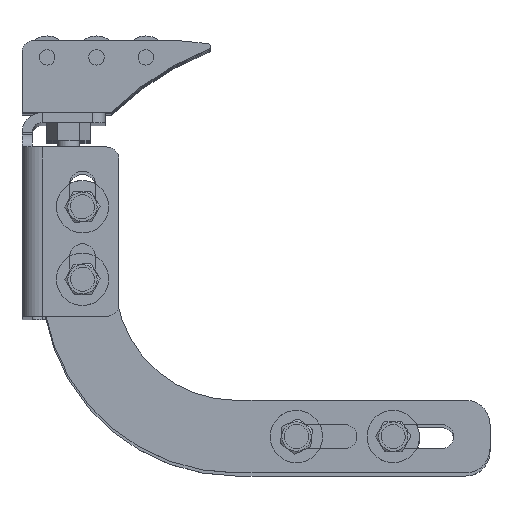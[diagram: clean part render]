
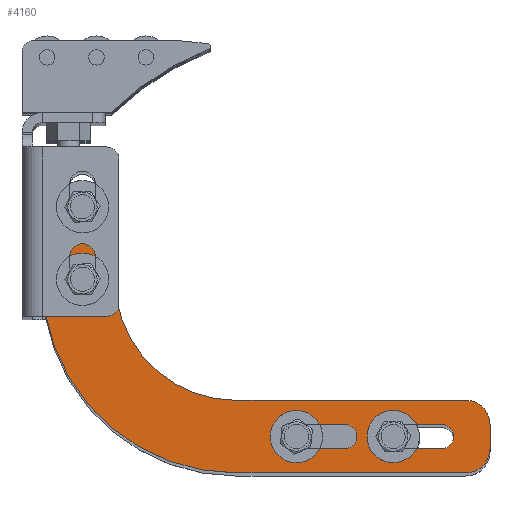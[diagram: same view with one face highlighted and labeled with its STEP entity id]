
A CAD part, top view. The second image highlights one B-rep face of the part: STEP entity #4160.
In plain terms, the highlighted planar face has unit normal (0, 0, 1) as drawn and (0, 0, -1) by its records, which use the part's own axes.
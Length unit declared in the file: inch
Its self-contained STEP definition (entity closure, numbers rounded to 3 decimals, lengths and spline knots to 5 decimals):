
#3593=DIRECTION('',(0.,-1.,0.));
#3594=VECTOR('',#3593,0.75);
#3595=CARTESIAN_POINT('',(0.,2.75,-0.25));
#3596=LINE('',#3595,#3594);
#3597=CARTESIAN_POINT('',(-0.25,2.75,-0.25));
#3598=DIRECTION('',(0.,0.,-1.));
#3599=DIRECTION('',(0.,1.,0.));
#3600=AXIS2_PLACEMENT_3D('',#3597,#3598,#3599);
#3602=DIRECTION('',(1.,0.,0.));
#3603=VECTOR('',#3602,0.25);
#3604=CARTESIAN_POINT('',(-0.5,3.,-0.25));
#3605=LINE('',#3604,#3603);
#3606=CARTESIAN_POINT('',(-0.5,2.75,-0.25));
#3607=DIRECTION('',(0.,0.,-1.));
#3608=DIRECTION('',(-1.,0.,0.));
#3609=AXIS2_PLACEMENT_3D('',#3606,#3607,#3608);
#3611=DIRECTION('',(0.,1.,0.));
#3612=VECTOR('',#3611,0.75);
#3613=CARTESIAN_POINT('',(-0.75,2.,-0.25));
#3614=LINE('',#3613,#3612);
#3615=CARTESIAN_POINT('',(-2.,2.,-0.25));
#3616=DIRECTION('',(0.,0.,1.));
#3617=DIRECTION('',(0.,-1.,0.));
#3618=AXIS2_PLACEMENT_3D('',#3615,#3616,#3617);
#3620=DIRECTION('',(1.,0.,0.));
#3621=VECTOR('',#3620,2.375);
#3622=CARTESIAN_POINT('',(-4.375,0.75,-0.25));
#3623=LINE('',#3622,#3621);
#3624=CARTESIAN_POINT('',(-4.375,0.5,-0.25));
#3625=DIRECTION('',(0.,0.,-1.));
#3626=DIRECTION('',(-1.,0.,0.));
#3627=AXIS2_PLACEMENT_3D('',#3624,#3625,#3626);
#3629=DIRECTION('',(0.,1.,0.));
#3630=VECTOR('',#3629,0.25);
#3631=CARTESIAN_POINT('',(-4.625,0.25,-0.25));
#3632=LINE('',#3631,#3630);
#3633=CARTESIAN_POINT('',(-4.375,0.25,-0.25));
#3634=DIRECTION('',(0.,0.,-1.));
#3635=DIRECTION('',(0.,-1.,0.));
#3636=AXIS2_PLACEMENT_3D('',#3633,#3634,#3635);
#3638=DIRECTION('',(-1.,0.,0.));
#3639=VECTOR('',#3638,2.375);
#3640=CARTESIAN_POINT('',(-2.,0.,-0.25));
#3641=LINE('',#3640,#3639);
#3642=CARTESIAN_POINT('',(-2.,2.,-0.25));
#3643=DIRECTION('',(0.,0.,-1.));
#3644=DIRECTION('',(1.,0.,0.));
#3645=AXIS2_PLACEMENT_3D('',#3642,#3643,#3644);
#3647=CARTESIAN_POINT('',(-0.4145,2.,-0.25));
#3648=DIRECTION('',(0.,0.,1.));
#3649=DIRECTION('',(1.,0.,0.));
#3650=AXIS2_PLACEMENT_3D('',#3647,#3648,#3649);
#3652=CARTESIAN_POINT('',(-0.4145,2.,-0.25));
#3653=DIRECTION('',(0.,0.,1.));
#3654=DIRECTION('',(-1.,0.,0.));
#3655=AXIS2_PLACEMENT_3D('',#3652,#3653,#3654);
#3657=CARTESIAN_POINT('',(-0.4145,2.75,-0.25));
#3658=DIRECTION('',(0.,0.,1.));
#3659=DIRECTION('',(1.,0.,0.));
#3660=AXIS2_PLACEMENT_3D('',#3657,#3658,#3659);
#3662=CARTESIAN_POINT('',(-0.4145,2.75,-0.25));
#3663=DIRECTION('',(0.,0.,1.));
#3664=DIRECTION('',(-1.,0.,0.));
#3665=AXIS2_PLACEMENT_3D('',#3662,#3663,#3664);
#3667=CARTESIAN_POINT('',(-2.625,0.375,-0.25));
#3668=DIRECTION('',(0.,0.,1.));
#3669=DIRECTION('',(1.,0.,0.));
#3670=AXIS2_PLACEMENT_3D('',#3667,#3668,#3669);
#3672=CARTESIAN_POINT('',(-2.625,0.375,-0.25));
#3673=DIRECTION('',(0.,0.,1.));
#3674=DIRECTION('',(0.,-1.,0.));
#3675=AXIS2_PLACEMENT_3D('',#3672,#3673,#3674);
#3677=CARTESIAN_POINT('',(-3.125,0.375,-0.25));
#3678=DIRECTION('',(0.,0.,1.));
#3679=DIRECTION('',(-1.,0.,0.));
#3680=AXIS2_PLACEMENT_3D('',#3677,#3678,#3679);
#3682=CARTESIAN_POINT('',(-3.125,0.375,-0.25));
#3683=DIRECTION('',(0.,0.,1.));
#3684=DIRECTION('',(0.,1.,0.));
#3685=AXIS2_PLACEMENT_3D('',#3682,#3683,#3684);
#3687=CARTESIAN_POINT('',(-3.625,0.375,-0.25));
#3688=DIRECTION('',(0.,0.,1.));
#3689=DIRECTION('',(1.,0.,0.));
#3690=AXIS2_PLACEMENT_3D('',#3687,#3688,#3689);
#3692=CARTESIAN_POINT('',(-3.625,0.375,-0.25));
#3693=DIRECTION('',(0.,0.,1.));
#3694=DIRECTION('',(0.,-1.,0.));
#3695=AXIS2_PLACEMENT_3D('',#3692,#3693,#3694);
#3697=CARTESIAN_POINT('',(-4.125,0.375,-0.25));
#3698=DIRECTION('',(0.,0.,1.));
#3699=DIRECTION('',(-1.,0.,0.));
#3700=AXIS2_PLACEMENT_3D('',#3697,#3698,#3699);
#3702=CARTESIAN_POINT('',(-4.125,0.375,-0.25));
#3703=DIRECTION('',(0.,0.,1.));
#3704=DIRECTION('',(0.,1.,0.));
#3705=AXIS2_PLACEMENT_3D('',#3702,#3703,#3704);
#3901=DIRECTION('',(1.,0.,0.));
#3902=VECTOR('',#3901,0.5);
#3903=CARTESIAN_POINT('',(-3.125,0.5,-0.25));
#3904=LINE('',#3903,#3902);
#3917=DIRECTION('',(-1.,0.,0.));
#3918=VECTOR('',#3917,0.5);
#3919=CARTESIAN_POINT('',(-2.625,0.25,-0.25));
#3920=LINE('',#3919,#3918);
#3929=DIRECTION('',(1.,0.,0.));
#3930=VECTOR('',#3929,0.5);
#3931=CARTESIAN_POINT('',(-4.125,0.5,-0.25));
#3932=LINE('',#3931,#3930);
#3945=DIRECTION('',(-1.,0.,0.));
#3946=VECTOR('',#3945,0.5);
#3947=CARTESIAN_POINT('',(-3.625,0.25,-0.25));
#3948=LINE('',#3947,#3946);
#3949=CARTESIAN_POINT('',(-0.75,2.75,-0.25));
#3950=CARTESIAN_POINT('',(-0.5,3.,-0.25));
#3951=VERTEX_POINT('',#3949);
#3952=VERTEX_POINT('',#3950);
#3954=CARTESIAN_POINT('',(-0.31607,2.75,-0.25));
#3956=VERTEX_POINT('',#3954);
#3958=CARTESIAN_POINT('',(-0.51293,2.75,-0.25));
#3960=VERTEX_POINT('',#3958);
#3965=CARTESIAN_POINT('',(-0.51293,2.,-0.25));
#3966=CARTESIAN_POINT('',(-0.31607,2.,-0.25));
#3967=VERTEX_POINT('',#3965);
#3968=VERTEX_POINT('',#3966);
#3974=CARTESIAN_POINT('',(-3.5,0.375,-0.25));
#3976=VERTEX_POINT('',#3974);
#3977=CARTESIAN_POINT('',(-4.125,0.5,-0.25));
#3978=CARTESIAN_POINT('',(-3.625,0.5,-0.25));
#3979=VERTEX_POINT('',#3977);
#3980=VERTEX_POINT('',#3978);
#3982=CARTESIAN_POINT('',(0.,2.75,-0.25));
#3984=VERTEX_POINT('',#3982);
#3986=CARTESIAN_POINT('',(-4.375,0.75,-0.25));
#3988=VERTEX_POINT('',#3986);
#3989=CARTESIAN_POINT('',(-2.,0.75,-0.25));
#3990=VERTEX_POINT('',#3989);
#3992=CARTESIAN_POINT('',(-4.625,0.25,-0.25));
#3994=VERTEX_POINT('',#3992);
#4011=CARTESIAN_POINT('',(-2.625,0.25,-0.25));
#4012=CARTESIAN_POINT('',(-3.125,0.25,-0.25));
#4013=VERTEX_POINT('',#4011);
#4014=VERTEX_POINT('',#4012);
#4015=CARTESIAN_POINT('',(-4.25,0.375,-0.25));
#4016=VERTEX_POINT('',#4015);
#4017=CARTESIAN_POINT('',(-4.125,0.25,-0.25));
#4018=VERTEX_POINT('',#4017);
#4021=CARTESIAN_POINT('',(-4.625,0.5,-0.25));
#4022=VERTEX_POINT('',#4021);
#4023=CARTESIAN_POINT('',(0.,2.,-0.25));
#4024=VERTEX_POINT('',#4023);
#4029=CARTESIAN_POINT('',(-0.25,3.,-0.25));
#4030=VERTEX_POINT('',#4029);
#4031=CARTESIAN_POINT('',(-2.5,0.375,-0.25));
#4032=CARTESIAN_POINT('',(-2.625,0.5,-0.25));
#4033=VERTEX_POINT('',#4031);
#4034=VERTEX_POINT('',#4032);
#4035=CARTESIAN_POINT('',(-4.375,0.,-0.25));
#4037=VERTEX_POINT('',#4035);
#4042=CARTESIAN_POINT('',(-2.,0.,-0.25));
#4044=VERTEX_POINT('',#4042);
#4045=CARTESIAN_POINT('',(-3.625,0.25,-0.25));
#4046=VERTEX_POINT('',#4045);
#4049=CARTESIAN_POINT('',(-3.125,0.5,-0.25));
#4050=CARTESIAN_POINT('',(-3.25,0.375,-0.25));
#4051=VERTEX_POINT('',#4049);
#4052=VERTEX_POINT('',#4050);
#4055=CARTESIAN_POINT('',(-0.75,2.,-0.25));
#4056=VERTEX_POINT('',#4055);
#4091=CARTESIAN_POINT('',(0.,0.,-0.25));
#4092=DIRECTION('',(0.,0.,1.));
#4093=DIRECTION('',(1.,0.,0.));
#4094=AXIS2_PLACEMENT_3D('',#4091,#4092,#4093);
#4095=PLANE('',#4094);
#4097=ORIENTED_EDGE('',*,*,#4096,.F.);
#4099=ORIENTED_EDGE('',*,*,#4098,.F.);
#4101=ORIENTED_EDGE('',*,*,#4100,.F.);
#4103=ORIENTED_EDGE('',*,*,#4102,.F.);
#4105=ORIENTED_EDGE('',*,*,#4104,.F.);
#4107=ORIENTED_EDGE('',*,*,#4106,.F.);
#4109=ORIENTED_EDGE('',*,*,#4108,.F.);
#4111=ORIENTED_EDGE('',*,*,#4110,.F.);
#4113=ORIENTED_EDGE('',*,*,#4112,.F.);
#4115=ORIENTED_EDGE('',*,*,#4114,.F.);
#4117=ORIENTED_EDGE('',*,*,#4116,.F.);
#4119=ORIENTED_EDGE('',*,*,#4118,.F.);
#4120=EDGE_LOOP('',(#4097,#4099,#4101,#4103,#4105,#4107,#4109,#4111,#4113,#4115,
#4117,#4119));
#4121=FACE_OUTER_BOUND('',#4120,.F.);
#4122=ORIENTED_EDGE('',*,*,#4072,.F.);
#4123=ORIENTED_EDGE('',*,*,#4082,.F.);
#4124=EDGE_LOOP('',(#4122,#4123));
#4125=FACE_BOUND('',#4124,.F.);
#4127=ORIENTED_EDGE('',*,*,#4126,.F.);
#4129=ORIENTED_EDGE('',*,*,#4128,.F.);
#4130=EDGE_LOOP('',(#4127,#4129));
#4131=FACE_BOUND('',#4130,.F.);
#4133=ORIENTED_EDGE('',*,*,#4132,.T.);
#4135=ORIENTED_EDGE('',*,*,#4134,.F.);
#4137=ORIENTED_EDGE('',*,*,#4136,.F.);
#4139=ORIENTED_EDGE('',*,*,#4138,.T.);
#4141=ORIENTED_EDGE('',*,*,#4140,.F.);
#4143=ORIENTED_EDGE('',*,*,#4142,.F.);
#4144=EDGE_LOOP('',(#4133,#4135,#4137,#4139,#4141,#4143));
#4145=FACE_BOUND('',#4144,.F.);
#4147=ORIENTED_EDGE('',*,*,#4146,.T.);
#4149=ORIENTED_EDGE('',*,*,#4148,.F.);
#4151=ORIENTED_EDGE('',*,*,#4150,.F.);
#4153=ORIENTED_EDGE('',*,*,#4152,.T.);
#4155=ORIENTED_EDGE('',*,*,#4154,.F.);
#4157=ORIENTED_EDGE('',*,*,#4156,.F.);
#4158=EDGE_LOOP('',(#4147,#4149,#4151,#4153,#4155,#4157));
#4159=FACE_BOUND('',#4158,.F.);
#3601=CIRCLE('',#3600,0.25);
#3610=CIRCLE('',#3609,0.25);
#3619=CIRCLE('',#3618,1.25);
#3628=CIRCLE('',#3627,0.25);
#3637=CIRCLE('',#3636,0.25);
#3646=CIRCLE('',#3645,2.);
#3651=CIRCLE('',#3650,0.09843);
#3656=CIRCLE('',#3655,0.09843);
#3661=CIRCLE('',#3660,0.09843);
#3666=CIRCLE('',#3665,0.09843);
#3671=CIRCLE('',#3670,0.125);
#3676=CIRCLE('',#3675,0.125);
#3681=CIRCLE('',#3680,0.125);
#3686=CIRCLE('',#3685,0.125);
#3691=CIRCLE('',#3690,0.125);
#3696=CIRCLE('',#3695,0.125);
#3701=CIRCLE('',#3700,0.125);
#3706=CIRCLE('',#3705,0.125);
#4072=EDGE_CURVE('',#3968,#3967,#3651,.T.);
#4082=EDGE_CURVE('',#3967,#3968,#3656,.T.);
#4096=EDGE_CURVE('',#3984,#4024,#3596,.T.);
#4098=EDGE_CURVE('',#4030,#3984,#3601,.T.);
#4100=EDGE_CURVE('',#3952,#4030,#3605,.T.);
#4102=EDGE_CURVE('',#3951,#3952,#3610,.T.);
#4104=EDGE_CURVE('',#4056,#3951,#3614,.T.);
#4106=EDGE_CURVE('',#3990,#4056,#3619,.T.);
#4108=EDGE_CURVE('',#3988,#3990,#3623,.T.);
#4110=EDGE_CURVE('',#4022,#3988,#3628,.T.);
#4112=EDGE_CURVE('',#3994,#4022,#3632,.T.);
#4114=EDGE_CURVE('',#4037,#3994,#3637,.T.);
#4116=EDGE_CURVE('',#4044,#4037,#3641,.T.);
#4118=EDGE_CURVE('',#4024,#4044,#3646,.T.);
#4126=EDGE_CURVE('',#3956,#3960,#3661,.T.);
#4128=EDGE_CURVE('',#3960,#3956,#3666,.T.);
#4132=EDGE_CURVE('',#4051,#4034,#3904,.T.);
#4134=EDGE_CURVE('',#4033,#4034,#3671,.T.);
#4136=EDGE_CURVE('',#4013,#4033,#3676,.T.);
#4138=EDGE_CURVE('',#4013,#4014,#3920,.T.);
#4140=EDGE_CURVE('',#4052,#4014,#3681,.T.);
#4142=EDGE_CURVE('',#4051,#4052,#3686,.T.);
#4146=EDGE_CURVE('',#3979,#3980,#3932,.T.);
#4148=EDGE_CURVE('',#3976,#3980,#3691,.T.);
#4150=EDGE_CURVE('',#4046,#3976,#3696,.T.);
#4152=EDGE_CURVE('',#4046,#4018,#3948,.T.);
#4154=EDGE_CURVE('',#4016,#4018,#3701,.T.);
#4156=EDGE_CURVE('',#3979,#4016,#3706,.T.);
#4160=ADVANCED_FACE('',(#4121,#4125,#4131,#4145,#4159),#4095,.F.);
